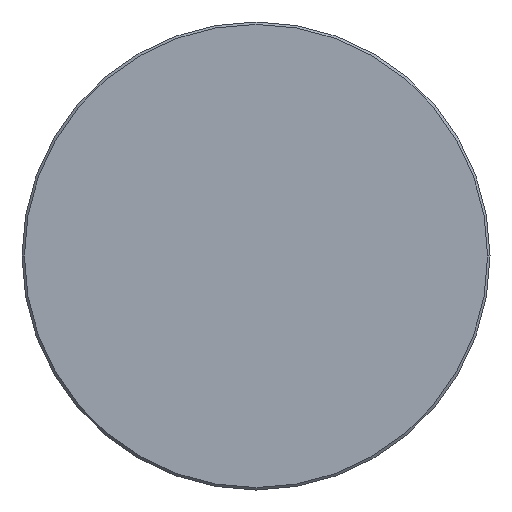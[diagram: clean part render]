
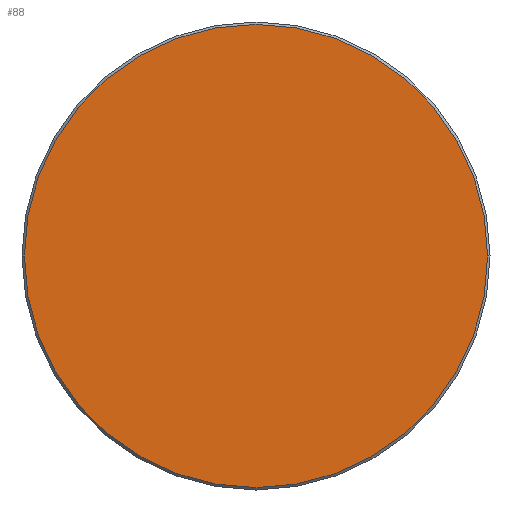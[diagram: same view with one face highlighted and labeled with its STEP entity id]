
A CAD part, left-side view. The second image highlights one B-rep face of the part: STEP entity #88.
In plain terms, the highlighted planar face has unit normal (-1, 0, 0).
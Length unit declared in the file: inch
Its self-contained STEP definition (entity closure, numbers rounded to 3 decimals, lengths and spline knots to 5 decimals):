
#39 = CIRCLE ( 'NONE', #243, 0.38663 ) ;
#40 = DIRECTION ( 'NONE',  ( -1., 0., 0. ) ) ;
#76 = AXIS2_PLACEMENT_3D ( 'NONE', #155, #40, #99 ) ;
#88 = ADVANCED_FACE ( 'NONE', ( #264 ), #266, .T. ) ;
#99 = DIRECTION ( 'NONE',  ( 0., -1., 0. ) ) ;
#100 = AXIS2_PLACEMENT_3D ( 'NONE', #160, #364, #245 ) ;
#104 = EDGE_CURVE ( 'NONE', #233, #357, #120, .T. ) ;
#120 = CIRCLE ( 'NONE', #100, 0.38663 ) ;
#125 = ORIENTED_EDGE ( 'NONE', *, *, #104, .T. ) ;
#131 = CARTESIAN_POINT ( 'NONE',  ( 0., -0.38663, 0. ) ) ;
#137 = CARTESIAN_POINT ( 'NONE',  ( 0., 0.38663, 0. ) ) ;
#155 = CARTESIAN_POINT ( 'NONE',  ( 0., 0., 0. ) ) ;
#160 = CARTESIAN_POINT ( 'NONE',  ( 0., 0., 0. ) ) ;
#169 = CARTESIAN_POINT ( 'NONE',  ( 0., 0., 0. ) ) ;
#199 = EDGE_LOOP ( 'NONE', ( #206, #125 ) ) ;
#206 = ORIENTED_EDGE ( 'NONE', *, *, #336, .T. ) ;
#233 = VERTEX_POINT ( 'NONE', #131 ) ;
#243 = AXIS2_PLACEMENT_3D ( 'NONE', #169, #345, #251 ) ;
#245 = DIRECTION ( 'NONE',  ( 0., -1., 0. ) ) ;
#251 = DIRECTION ( 'NONE',  ( 0., -1., 0. ) ) ;
#264 = FACE_OUTER_BOUND ( 'NONE', #199, .T. ) ;
#266 = PLANE ( 'NONE',  #76 ) ;
#336 = EDGE_CURVE ( 'NONE', #357, #233, #39, .T. ) ;
#345 = DIRECTION ( 'NONE',  ( -1., 0., 0. ) ) ;
#357 = VERTEX_POINT ( 'NONE', #137 ) ;
#364 = DIRECTION ( 'NONE',  ( -1., 0., 0. ) ) ;
